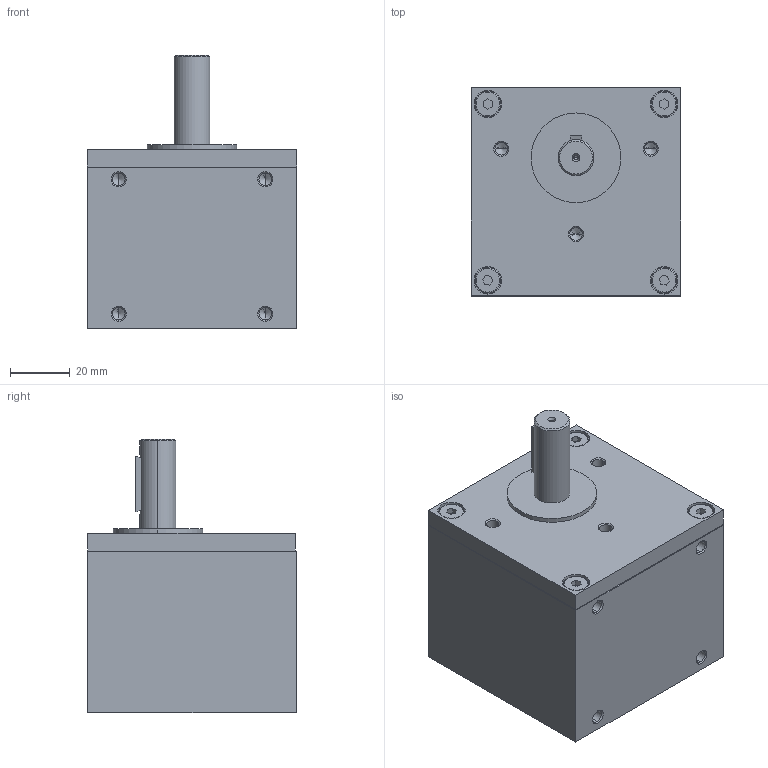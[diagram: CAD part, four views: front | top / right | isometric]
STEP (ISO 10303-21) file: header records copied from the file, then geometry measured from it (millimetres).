
FILE_DESCRIPTION (( 'STEP AP214' ), '1' );
FILE_NAME ('M7.STEP', '2012-04-11T04:41:21', ( ' ' ), ( '' ), 'SwSTEP 2.0', 'SolidWorks 2010', '' );
FILE_SCHEMA (( 'AUTOMOTIVE_DESIGN' ));
Length unit declared in the file: millimetre
Products named in the file (1): M7
Bounding box: 70 x 69.8 x 91.5 mm (x, y, z)
Volume: 293807.3 mm3; surface area: 30780.4 mm2
Topology: 1 solids, 1 shells, 150 faces, 344 edges, 204 vertices
Faces by surface type: plane 58, cylinder 46, cone 38, torus 8
Entity records: 4444 total; most frequent: DIRECTION 750, CARTESIAN_POINT 697, ORIENTED_EDGE 648, EDGE_CURVE 324, AXIS2_PLACEMENT_3D 277, VERTEX_POINT 204, LINE 196, VECTOR 196
